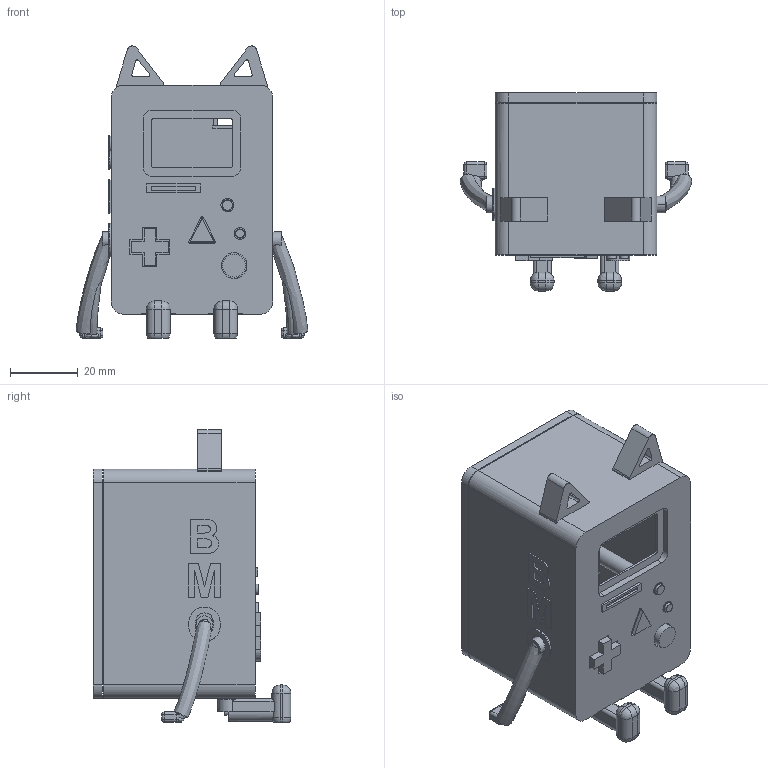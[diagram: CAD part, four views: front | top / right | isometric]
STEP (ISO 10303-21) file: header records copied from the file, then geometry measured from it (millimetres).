
FILE_DESCRIPTION(('FreeCAD Model'),'2;1');
FILE_NAME('Open CASCADE Shape Model','2026-11-17T15:22:43',('FreeCAD'),( 'FreeCAD'),'Open CASCADE STEP processor 7.8','FreeCAD','Unknown');
FILE_SCHEMA(('AUTOMOTIVE_DESIGN { 1 0 10303 214 1 1 1 1 }'));
Length unit declared in the file: millimetre
Products named in the file (1): Open CASCADE STEP translator 7.8 18
Bounding box: 68.58 x 58.6 x 86.59 mm (x, y, z)
Volume: 46109.7 mm3; surface area: 38812.1 mm2
Topology: 7 solids, 7 shells, 884 faces, 2403 edges, 1572 vertices
Faces by surface type: plane 335, extrusion 250, cylinder 157, bspline 113, sphere 29
Full cylindrical faces by diameter (mm): 1.7 x8, 2.3 x4, 2.6 x2, 2.7 x1, 3 x2, 3.1 x1, 3.5 x1, 3.6 x4, 3.9 x1, 4.2 x4, 4.4 x2, 5 x2, 6.2 x2, 6.8 x1, 7.6 x1, 9 x1, 9.8 x1
Entity records: 34223 total; most frequent: CARTESIAN_POINT 13632, ORIENTED_EDGE 4762, DIRECTION 3253, EDGE_CURVE 2381, VERTEX_POINT 1572, VECTOR 1373, LINE 1123, B_SPLINE_CURVE_WITH_KNOTS 1042
